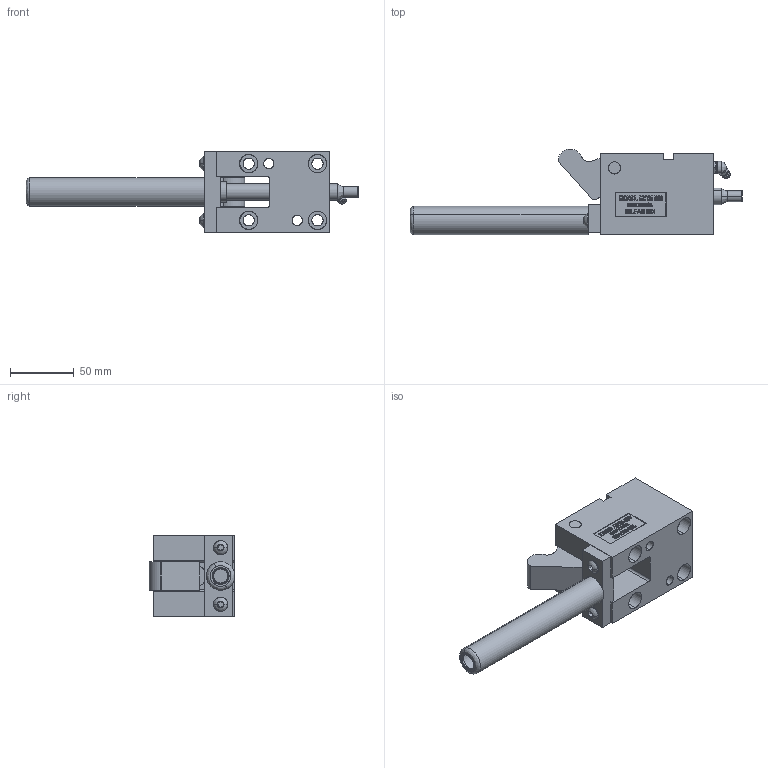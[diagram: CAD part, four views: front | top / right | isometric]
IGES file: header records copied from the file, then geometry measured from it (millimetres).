
Start section: SolidWorks IGES file using analytic representation for surfaces
Global section: file name: Y:\METRIC With OFFSETRIGGER\TOPMOUNT\MTOL50045\OPEN\MTOL50045-O.IGS; native system: SolidWorks 2006 by SolidWorks Corporation; preprocessor: SolidWorks 2006 by SolidWorks Corporation; author: Jim; date: 090120.182027; units: inch
Bounding box: 260.22 x 67.08 x 63.5 mm (x, y, z)
Surface area: 88224.1 mm2 (no closed solid volume)
Topology: 0 solids, 0 shells, 596 faces, 7335 edges, 7331 vertices
Faces by surface type: bspline 472, revolution 124
